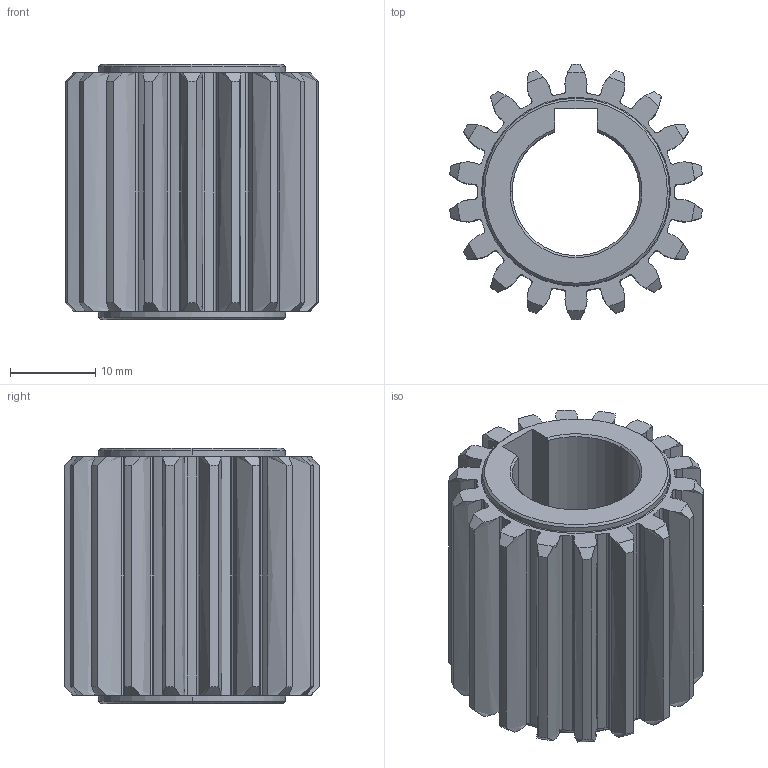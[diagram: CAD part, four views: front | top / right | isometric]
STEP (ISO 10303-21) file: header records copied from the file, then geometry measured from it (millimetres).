
FILE_DESCRIPTION (( 'STEP AP214' ), '1' );
FILE_NAME ('1SG__S015018S.STEP', '2021-08-03T07:18:15', ( '' ), ( '' ), 'SwSTEP 2.0', 'SolidWorks 2021', '' );
FILE_SCHEMA (( 'AUTOMOTIVE_DESIGN' ));
Length unit declared in the file: millimetre
Products named in the file (1): 1SG__S015018S
Bounding box: 29.7 x 30 x 30 mm (x, y, z)
Volume: 10677.6 mm3; surface area: 7208 mm2
Topology: 1 solids, 1 shells, 200 faces, 608 edges, 412 vertices
Faces by surface type: cylinder 71, bspline 54, cone 46, plane 25, torus 4
Entity records: 11030 total; most frequent: CARTESIAN_POINT 5751, ORIENTED_EDGE 1216, DIRECTION 982, EDGE_CURVE 608, VERTEX_POINT 412, AXIS2_PLACEMENT_3D 375, VECTOR 232, LINE 232
